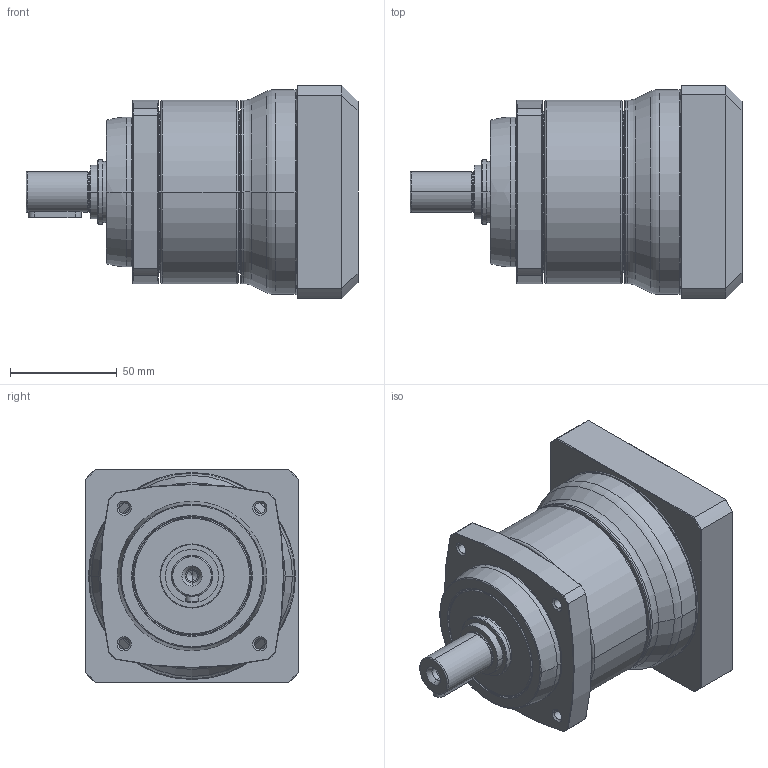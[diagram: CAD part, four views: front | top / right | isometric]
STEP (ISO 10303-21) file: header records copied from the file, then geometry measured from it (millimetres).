
FILE_DESCRIPTION((''),'2;1');
FILE_NAME('PS2-C_1ST_24-P0411500101_ASM','2016-05-19T',('d01943'),(''),'PRO/ENGINEER BY PARAMETRIC TECHNOLOGY CORPORATION, 2008410','PRO/ENGINEER BY PARAMETRIC TECHNOLOGY CORPORATION, 2008410','');
FILE_SCHEMA(('CONFIG_CONTROL_DESIGN'));
Length unit declared in the file: millimetre
Products named in the file (9): P1328310001; P0250300001; P1324300201; P0350301401; P0941302001; P0503500008; P0411500101; P1702500001; PS2-C_1ST_24-P0411500101_ASM
Assembly tree (8 placements, depth 2):
  PS2-C_1ST_24-P0411500101_ASM
    P1328310001
    P0250300001
    P1324300201
    P0350301401
    P0941302001
    P0503500008
    P0411500101
    P1702500001
Bounding box: 155.5 x 100 x 100 mm (x, y, z)
Volume: 578025.4 mm3; surface area: 143512.9 mm2
Topology: 8 solids, 8 shells, 478 faces, 1044 edges, 606 vertices
Faces by surface type: cone 152, cylinder 141, torus 88, plane 79, bspline 18
Entity records: 17811 total; most frequent: CARTESIAN_POINT 7034, DIRECTION 2454, ORIENTED_EDGE 2048, AXIS2_PLACEMENT_3D 1058, EDGE_CURVE 1024, VERTEX_POINT 606, CIRCLE 581, EDGE_LOOP 546
